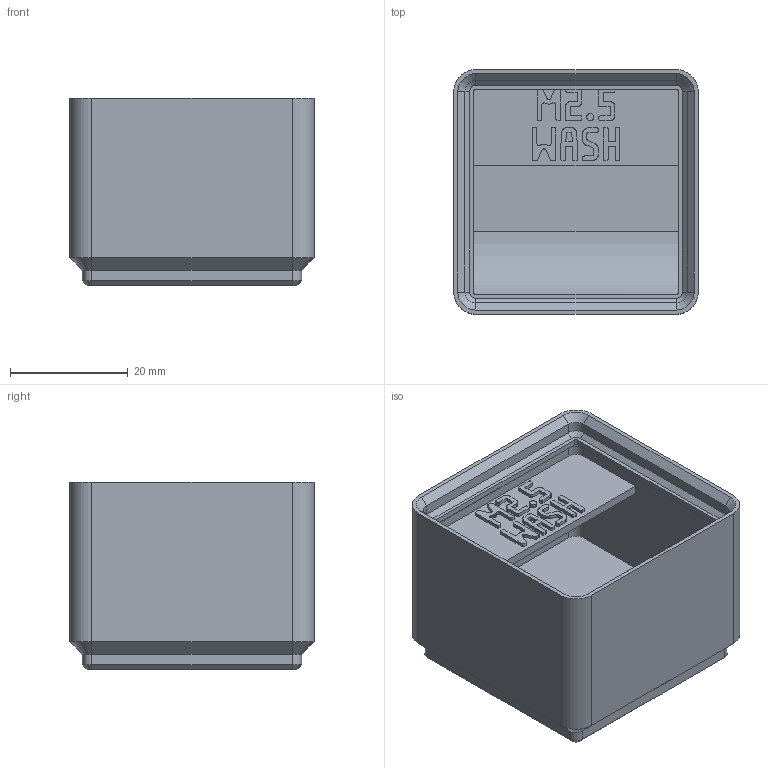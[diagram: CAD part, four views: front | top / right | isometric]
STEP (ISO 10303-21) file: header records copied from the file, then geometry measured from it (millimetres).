
FILE_DESCRIPTION(('Open CASCADE Model'),'2;1');
FILE_NAME('Open CASCADE Shape Model','2026-11-03T10:26:27',('Author'),( 'Open CASCADE'),'Open CASCADE STEP processor 8.0','build123d', 'Unknown');
FILE_SCHEMA(('AUTOMOTIVE_DESIGN { 1 0 10303 214 1 1 1 1 }'));
Products named in the file (1): COMPOUND
Bounding box: 41.5 x 41.5 x 31.8 mm (x, y, z)
Volume: 24300.5 mm3; surface area: 12313.1 mm2
Topology: 1 solids, 1 shells, 922 faces, 2671 edges, 1762 vertices
Faces by surface type: plane 879, cylinder 23, cone 20
Entity records: 62899 total; most frequent: CARTESIAN_POINT 12925, DIRECTION 8049, LINE 6075, VECTOR 6075, ORIENTED_EDGE 5342, PCURVE 5342, DEFINITIONAL_REPRESENTATION 5342, EDGE_CURVE 2671
